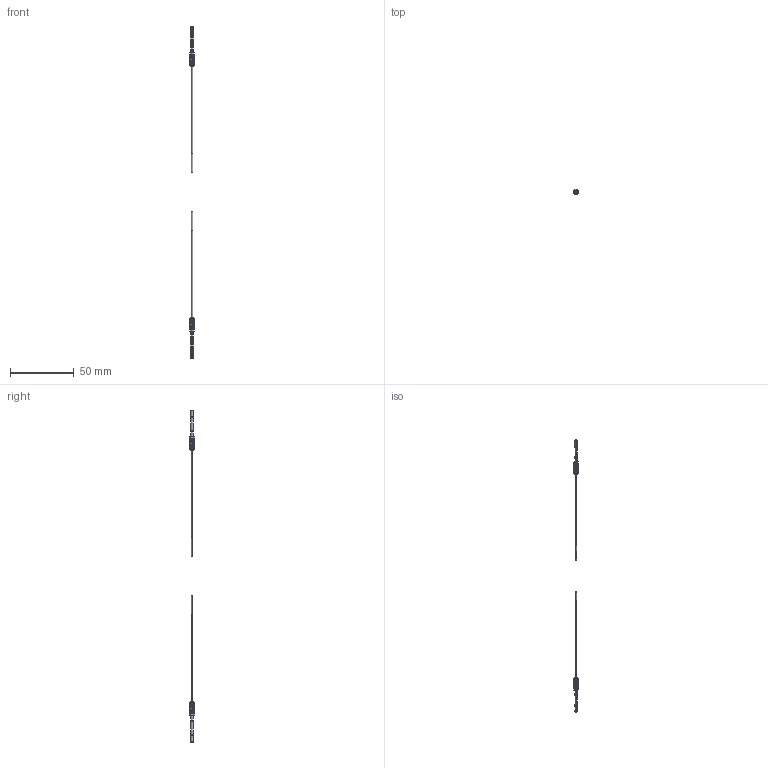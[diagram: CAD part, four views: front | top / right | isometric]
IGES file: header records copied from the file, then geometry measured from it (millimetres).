
Start section: SolidWorks IGES file using analytic representation for surfaces
Bounding box: 4 x 4 x 260 mm (x, y, z)
Surface area: 1580.6 mm2 (no closed solid volume)
Topology: 0 solids, 0 shells, 190 faces, 1576 edges, 1576 vertices
Faces by surface type: bspline 118, revolution 72
